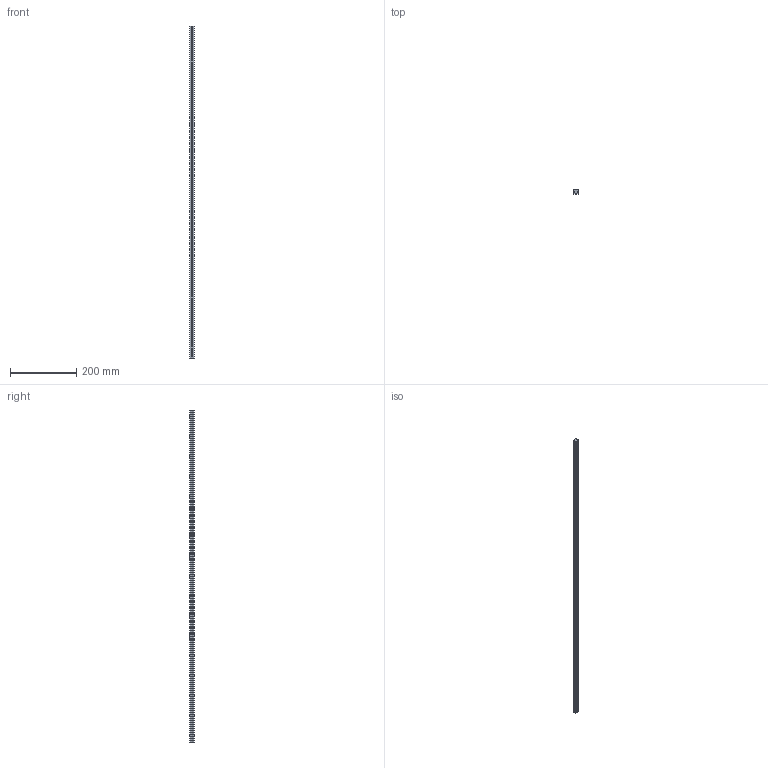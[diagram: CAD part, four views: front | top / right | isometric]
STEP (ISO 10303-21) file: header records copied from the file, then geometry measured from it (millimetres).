
FILE_DESCRIPTION (( 'STEP AP214' ), '1' );
FILE_NAME ('2.0009 Lineaarijohde EGR15U.STEP', '2024-04-22T07:57:23', ( '' ), ( '' ), 'SwSTEP 2.0', 'SolidWorks 2024', '' );
FILE_SCHEMA (( 'AUTOMOTIVE_DESIGN' ));
Length unit declared in the file: millimetre
Products named in the file (1): 2.0009 Lineaarijohde EGR15U
Bounding box: 15 x 12.5 x 1000 mm (x, y, z)
Volume: 157435.7 mm3; surface area: 60038.3 mm2
Topology: 1 solids, 1 shells, 139 faces, 411 edges, 274 vertices
Faces by surface type: cylinder 85, plane 54
Entity records: 4840 total; most frequent: CARTESIAN_POINT 927, DIRECTION 861, ORIENTED_EDGE 822, EDGE_CURVE 411, AXIS2_PLACEMENT_3D 344, VERTEX_POINT 274, CIRCLE 204, VECTOR 173
